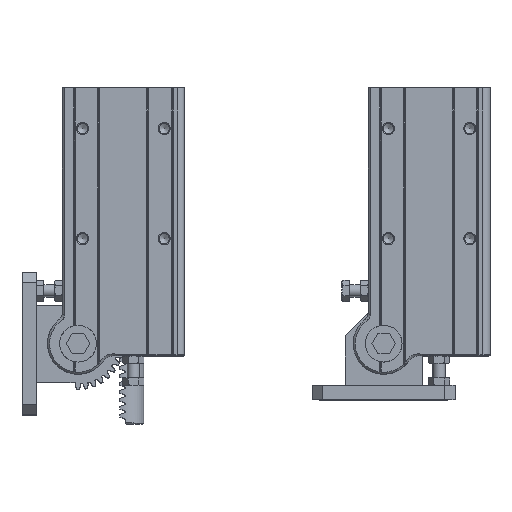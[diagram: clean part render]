
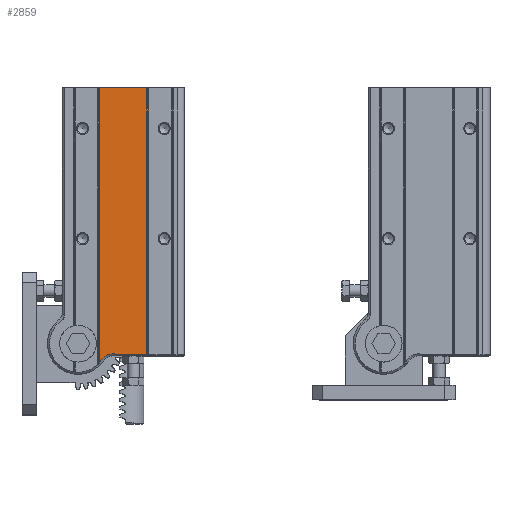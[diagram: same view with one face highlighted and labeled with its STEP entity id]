
A CAD part, top view. The second image highlights one B-rep face of the part: STEP entity #2859.
In plain terms, the highlighted planar face has unit normal (0, 0, 1).
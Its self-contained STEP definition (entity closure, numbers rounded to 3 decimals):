
#2859=ADVANCED_FACE('',(#9052),#6323,.T.);
#6323=PLANE('',#67401);
#9052=FACE_OUTER_BOUND('',#12293,.T.);
#12293=EDGE_LOOP('',(#18319,#18320,#18321,#18322,#18323,#18324,#18325));
#16151=CIRCLE('',#67398,14.);
#16152=CIRCLE('',#67399,7.);
#16153=CIRCLE('',#67400,7.);
#18319=ORIENTED_EDGE('',*,*,#43132,.T.);
#18320=ORIENTED_EDGE('',*,*,#43133,.T.);
#18321=ORIENTED_EDGE('',*,*,#43134,.F.);
#18322=ORIENTED_EDGE('',*,*,#43135,.T.);
#18323=ORIENTED_EDGE('',*,*,#43136,.T.);
#18324=ORIENTED_EDGE('',*,*,#43137,.T.);
#18325=ORIENTED_EDGE('',*,*,#43138,.T.);
#36643=VERTEX_POINT('',#91519);
#36644=VERTEX_POINT('',#91520);
#36645=VERTEX_POINT('',#91522);
#36646=VERTEX_POINT('',#91524);
#36647=VERTEX_POINT('',#91526);
#36648=VERTEX_POINT('',#91528);
#36649=VERTEX_POINT('',#91530);
#43132=EDGE_CURVE('',#36643,#36644,#52273,.T.);
#43133=EDGE_CURVE('',#36644,#36645,#52274,.T.);
#43134=EDGE_CURVE('',#36646,#36645,#52275,.T.);
#43135=EDGE_CURVE('',#36646,#36647,#16151,.T.);
#43136=EDGE_CURVE('',#36647,#36648,#16152,.T.);
#43137=EDGE_CURVE('',#36648,#36649,#16153,.T.);
#43138=EDGE_CURVE('',#36649,#36643,#52276,.T.);
#52273=LINE('',#91518,#59807);
#52274=LINE('',#91521,#59808);
#52275=LINE('',#91523,#59809);
#52276=LINE('',#91531,#59810);
#59807=VECTOR('',#72926,1.);
#59808=VECTOR('',#72927,1.);
#59809=VECTOR('',#72928,1.);
#59810=VECTOR('',#72935,1.);
#67398=AXIS2_PLACEMENT_3D('',#91525,#72929,#72930);
#67399=AXIS2_PLACEMENT_3D('',#91527,#72931,#72932);
#67400=AXIS2_PLACEMENT_3D('',#91529,#72933,#72934);
#67401=AXIS2_PLACEMENT_3D('',#91532,#72936,#72937);
#72926=DIRECTION('',(0.,1.,0.));
#72927=DIRECTION('',(-1.,0.,0.));
#72928=DIRECTION('',(0.,1.,0.));
#72929=DIRECTION('',(0.,0.,1.));
#72930=DIRECTION('',(-1.,0.,0.));
#72931=DIRECTION('',(0.,0.,-1.));
#72932=DIRECTION('',(-1.,0.,0.));
#72933=DIRECTION('',(0.,0.,-1.));
#72934=DIRECTION('',(1.,0.,0.));
#72935=DIRECTION('',(1.,0.,0.));
#72936=DIRECTION('',(0.,0.,1.));
#72937=DIRECTION('',(0.,1.,0.));
#91518=CARTESIAN_POINT('',(43.5,-95.7,-3.6));
#91519=CARTESIAN_POINT('',(43.5,-70.,-3.6));
#91520=CARTESIAN_POINT('',(43.5,61.,-3.6));
#91521=CARTESIAN_POINT('',(20.5,61.,-3.6));
#91522=CARTESIAN_POINT('',(20.5,61.,-3.6));
#91523=CARTESIAN_POINT('',(20.5,-95.7,-3.6));
#91524=CARTESIAN_POINT('',(20.5,-73.469,-3.6));
#91525=CARTESIAN_POINT('',(9.75,-64.5,-3.6));
#91526=CARTESIAN_POINT('',(21.239,-72.5,-3.6));
#91527=CARTESIAN_POINT('',(26.984,-76.5,-3.6));
#91528=CARTESIAN_POINT('',(24.386,-70.,-3.6));
#91529=CARTESIAN_POINT('',(26.984,-76.5,-3.6));
#91530=CARTESIAN_POINT('',(29.582,-70.,-3.6));
#91531=CARTESIAN_POINT('',(43.5,-70.,-3.6));
#91532=CARTESIAN_POINT('',(20.5,-95.7,-3.6));
